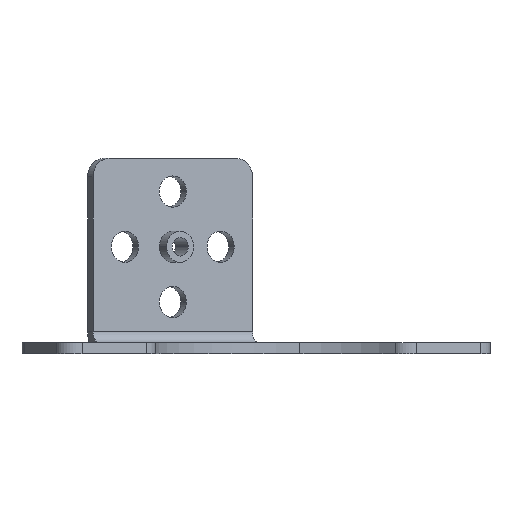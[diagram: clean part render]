
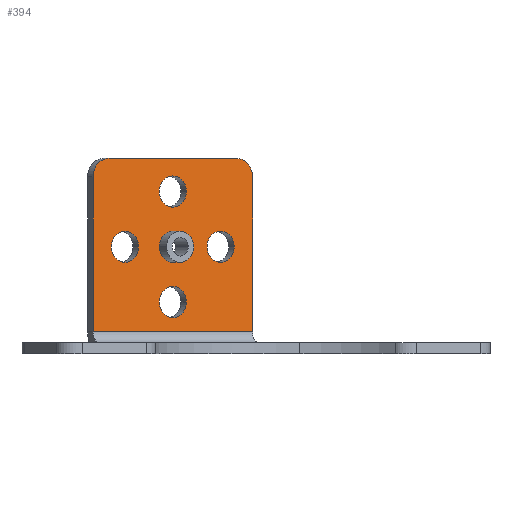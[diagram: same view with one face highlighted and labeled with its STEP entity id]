
A CAD part, left-side view. The second image highlights one B-rep face of the part: STEP entity #394.
In plain terms, the highlighted planar face has unit normal (-0.866, -0.5, 0).
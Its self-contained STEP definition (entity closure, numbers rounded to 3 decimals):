
#259 = VERTEX_POINT ( 'NONE', #1115 ) ;
#260 = VERTEX_POINT ( 'NONE', #1114 ) ;
#280 = VERTEX_POINT ( 'NONE', #1075 ) ;
#281 = VERTEX_POINT ( 'NONE', #1070 ) ;
#302 = EDGE_CURVE ( 'NONE', #259, #260, #953, .T. ) ;
#322 = EDGE_CURVE ( 'NONE', #281, #280, #1127, .T. ) ;
#336 = EDGE_CURVE ( 'NONE', #339, #337, #1177, .T. ) ;
#337 = VERTEX_POINT ( 'NONE', #1320 ) ;
#339 = VERTEX_POINT ( 'NONE', #1319 ) ;
#348 = ORIENTED_EDGE ( 'NONE', *, *, #484, .T. ) ;
#349 = EDGE_CURVE ( 'NONE', #547, #455, #1122, .T. ) ;
#350 = ORIENTED_EDGE ( 'NONE', *, *, #354, .F. ) ;
#354 = EDGE_CURVE ( 'NONE', #455, #547, #1295, .T. ) ;
#371 = ORIENTED_EDGE ( 'NONE', *, *, #372, .F. ) ;
#372 = EDGE_CURVE ( 'NONE', #260, #259, #1345, .T. ) ;
#373 = EDGE_LOOP ( 'NONE', ( #520, #482 ) ) ;
#374 = VERTEX_POINT ( 'NONE', #1340 ) ;
#375 = EDGE_CURVE ( 'NONE', #337, #339, #1339, .T. ) ;
#376 = ORIENTED_EDGE ( 'NONE', *, *, #302, .F. ) ;
#384 = EDGE_CURVE ( 'NONE', #385, #445, #1222, .T. ) ;
#385 = VERTEX_POINT ( 'NONE', #1218 ) ;
#394 = ADVANCED_FACE ( 'NONE', ( #1317, #1316, #1315, #1314, #1313, #1312 ), #1311, .T. ) ;
#416 = ORIENTED_EDGE ( 'NONE', *, *, #514, .F. ) ;
#417 = EDGE_LOOP ( 'NONE', ( #471, #479 ) ) ;
#430 = VERTEX_POINT ( 'NONE', #1496 ) ;
#431 = VERTEX_POINT ( 'NONE', #1495 ) ;
#445 = VERTEX_POINT ( 'NONE', #1475 ) ;
#446 = ORIENTED_EDGE ( 'NONE', *, *, #470, .T. ) ;
#455 = VERTEX_POINT ( 'NONE', #1391 ) ;
#465 = ORIENTED_EDGE ( 'NONE', *, *, #322, .F. ) ;
#466 = ORIENTED_EDGE ( 'NONE', *, *, #468, .F. ) ;
#467 = VERTEX_POINT ( 'NONE', #1549 ) ;
#468 = EDGE_CURVE ( 'NONE', #280, #281, #1548, .T. ) ;
#469 = EDGE_LOOP ( 'NONE', ( #515, #350 ) ) ;
#470 = EDGE_CURVE ( 'NONE', #385, #374, #1543, .T. ) ;
#471 = ORIENTED_EDGE ( 'NONE', *, *, #336, .F. ) ;
#479 = ORIENTED_EDGE ( 'NONE', *, *, #375, .F. ) ;
#480 = EDGE_LOOP ( 'NONE', ( #465, #466 ) ) ;
#481 = EDGE_LOOP ( 'NONE', ( #376, #371 ) ) ;
#482 = ORIENTED_EDGE ( 'NONE', *, *, #483, .F. ) ;
#483 = EDGE_CURVE ( 'NONE', #431, #430, #1526, .T. ) ;
#484 = EDGE_CURVE ( 'NONE', #467, #518, #1522, .T. ) ;
#492 = EDGE_LOOP ( 'NONE', ( #493, #446, #519, #348, #416, #513 ) ) ;
#493 = ORIENTED_EDGE ( 'NONE', *, *, #384, .F. ) ;
#509 = EDGE_CURVE ( 'NONE', #430, #431, #1580, .T. ) ;
#511 = VERTEX_POINT ( 'NONE', #1571 ) ;
#512 = EDGE_CURVE ( 'NONE', #467, #374, #1570, .T. ) ;
#513 = ORIENTED_EDGE ( 'NONE', *, *, #543, .F. ) ;
#514 = EDGE_CURVE ( 'NONE', #511, #518, #1566, .T. ) ;
#515 = ORIENTED_EDGE ( 'NONE', *, *, #349, .F. ) ;
#518 = VERTEX_POINT ( 'NONE', #1379 ) ;
#519 = ORIENTED_EDGE ( 'NONE', *, *, #512, .F. ) ;
#520 = ORIENTED_EDGE ( 'NONE', *, *, #509, .F. ) ;
#543 = EDGE_CURVE ( 'NONE', #445, #511, #1424, .T. ) ;
#547 = VERTEX_POINT ( 'NONE', #1411 ) ;
#949 = DIRECTION ( 'NONE',  ( 0.5, -0.866, 0. ) ) ;
#950 = DIRECTION ( 'NONE',  ( -0.866, -0.5, 0. ) ) ;
#951 = CARTESIAN_POINT ( 'NONE',  ( 104.171, 45.201, -1.9 ) ) ;
#952 = AXIS2_PLACEMENT_3D ( 'NONE', #951, #950, #949 ) ;
#953 = CIRCLE ( 'NONE', #952, 4.25 ) ;
#1070 = CARTESIAN_POINT ( 'NONE',  ( 109.546, 35.891, 13.1 ) ) ;
#1075 = CARTESIAN_POINT ( 'NONE',  ( 113.796, 28.53, 13.1 ) ) ;
#1114 = CARTESIAN_POINT ( 'NONE',  ( 106.296, 41.52, -1.9 ) ) ;
#1115 = CARTESIAN_POINT ( 'NONE',  ( 102.046, 48.881, -1.9 ) ) ;
#1118 = DIRECTION ( 'NONE',  ( 0.5, -0.866, 0. ) ) ;
#1119 = DIRECTION ( 'NONE',  ( -0.866, -0.5, 0. ) ) ;
#1120 = CARTESIAN_POINT ( 'NONE',  ( 104.171, 45.201, 13.1 ) ) ;
#1121 = AXIS2_PLACEMENT_3D ( 'NONE', #1120, #1119, #1118 ) ;
#1122 = CIRCLE ( 'NONE', #1121, 4.25 ) ;
#1125 = DIRECTION ( 'NONE',  ( -0.866, -0.5, 0. ) ) ;
#1126 = AXIS2_PLACEMENT_3D ( 'NONE', #1231, #1125, #1200 ) ;
#1127 = CIRCLE ( 'NONE', #1126, 4.25 ) ;
#1176 = CARTESIAN_POINT ( 'NONE',  ( 96.671, 58.191, 13.1 ) ) ;
#1177 = CIRCLE ( 'NONE', #1323, 4.25 ) ;
#1200 = DIRECTION ( 'NONE',  ( 0.5, -0.866, 0. ) ) ;
#1218 = CARTESIAN_POINT ( 'NONE',  ( 116.671, 23.55, 32.1 ) ) ;
#1219 = DIRECTION ( 'NONE',  ( 0., 0., -1. ) ) ;
#1220 = VECTOR ( 'NONE', #1219, 1000. ) ;
#1221 = CARTESIAN_POINT ( 'NONE',  ( 116.671, 23.55, -12.9 ) ) ;
#1222 = LINE ( 'NONE', #1221, #1220 ) ;
#1231 = CARTESIAN_POINT ( 'NONE',  ( 111.671, 32.21, 13.1 ) ) ;
#1237 = DIRECTION ( 'NONE',  ( 0.5, -0.866, 0. ) ) ;
#1238 = DIRECTION ( 'NONE',  ( -0.866, -0.5, 0. ) ) ;
#1239 = CARTESIAN_POINT ( 'NONE',  ( 104.171, 45.201, 13.1 ) ) ;
#1240 = AXIS2_PLACEMENT_3D ( 'NONE', #1239, #1238, #1237 ) ;
#1295 = CIRCLE ( 'NONE', #1240, 4.25 ) ;
#1307 = DIRECTION ( 'NONE',  ( 0.5, -0.866, 0. ) ) ;
#1308 = DIRECTION ( 'NONE',  ( -0.866, -0.5, 0. ) ) ;
#1309 = CARTESIAN_POINT ( 'NONE',  ( 91.671, 66.851, -12.9 ) ) ;
#1310 = AXIS2_PLACEMENT_3D ( 'NONE', #1309, #1308, #1307 ) ;
#1311 = PLANE ( 'NONE',  #1310 ) ;
#1312 = FACE_BOUND ( 'NONE', #469, .T. ) ;
#1313 = FACE_BOUND ( 'NONE', #373, .T. ) ;
#1314 = FACE_BOUND ( 'NONE', #481, .T. ) ;
#1315 = FACE_BOUND ( 'NONE', #480, .T. ) ;
#1316 = FACE_BOUND ( 'NONE', #417, .T. ) ;
#1317 = FACE_OUTER_BOUND ( 'NONE', #492, .T. ) ;
#1319 = CARTESIAN_POINT ( 'NONE',  ( 94.546, 61.872, 13.1 ) ) ;
#1320 = CARTESIAN_POINT ( 'NONE',  ( 98.796, 54.511, 13.1 ) ) ;
#1321 = DIRECTION ( 'NONE',  ( 0.5, -0.866, 0. ) ) ;
#1322 = DIRECTION ( 'NONE',  ( -0.866, -0.5, 0. ) ) ;
#1323 = AXIS2_PLACEMENT_3D ( 'NONE', #1176, #1322, #1321 ) ;
#1335 = DIRECTION ( 'NONE',  ( 0.5, -0.866, 0. ) ) ;
#1336 = DIRECTION ( 'NONE',  ( -0.866, -0.5, 0. ) ) ;
#1337 = CARTESIAN_POINT ( 'NONE',  ( 96.671, 58.191, 13.1 ) ) ;
#1338 = AXIS2_PLACEMENT_3D ( 'NONE', #1337, #1336, #1335 ) ;
#1339 = CIRCLE ( 'NONE', #1338, 4.25 ) ;
#1340 = CARTESIAN_POINT ( 'NONE',  ( 114.171, 27.88, 37.1 ) ) ;
#1341 = DIRECTION ( 'NONE',  ( 0.5, -0.866, 0. ) ) ;
#1342 = DIRECTION ( 'NONE',  ( -0.866, -0.5, 0. ) ) ;
#1343 = CARTESIAN_POINT ( 'NONE',  ( 104.171, 45.201, -1.9 ) ) ;
#1344 = AXIS2_PLACEMENT_3D ( 'NONE', #1343, #1342, #1341 ) ;
#1345 = CIRCLE ( 'NONE', #1344, 4.25 ) ;
#1379 = CARTESIAN_POINT ( 'NONE',  ( 91.671, 66.851, 32.1 ) ) ;
#1391 = CARTESIAN_POINT ( 'NONE',  ( 106.296, 41.52, 13.1 ) ) ;
#1411 = CARTESIAN_POINT ( 'NONE',  ( 102.046, 48.881, 13.1 ) ) ;
#1421 = DIRECTION ( 'NONE',  ( -0.5, 0.866, 0. ) ) ;
#1422 = VECTOR ( 'NONE', #1421, 1000. ) ;
#1423 = CARTESIAN_POINT ( 'NONE',  ( 116.671, 23.55, -9.9 ) ) ;
#1424 = LINE ( 'NONE', #1423, #1422 ) ;
#1475 = CARTESIAN_POINT ( 'NONE',  ( 116.671, 23.55, -9.9 ) ) ;
#1495 = CARTESIAN_POINT ( 'NONE',  ( 106.296, 41.52, 28.1 ) ) ;
#1496 = CARTESIAN_POINT ( 'NONE',  ( 102.046, 48.881, 28.1 ) ) ;
#1518 = DIRECTION ( 'NONE',  ( 0.5, -0.866, 0. ) ) ;
#1519 = DIRECTION ( 'NONE',  ( -0.866, -0.5, 0. ) ) ;
#1520 = CARTESIAN_POINT ( 'NONE',  ( 94.171, 62.521, 32.1 ) ) ;
#1521 = AXIS2_PLACEMENT_3D ( 'NONE', #1520, #1519, #1518 ) ;
#1522 = CIRCLE ( 'NONE', #1521, 5. ) ;
#1523 = DIRECTION ( 'NONE',  ( 0.5, -0.866, 0. ) ) ;
#1524 = DIRECTION ( 'NONE',  ( -0.866, -0.5, 0. ) ) ;
#1525 = AXIS2_PLACEMENT_3D ( 'NONE', #1532, #1524, #1523 ) ;
#1526 = CIRCLE ( 'NONE', #1525, 4.25 ) ;
#1532 = CARTESIAN_POINT ( 'NONE',  ( 104.171, 45.201, 28.1 ) ) ;
#1539 = DIRECTION ( 'NONE',  ( 0.5, -0.866, 0. ) ) ;
#1540 = DIRECTION ( 'NONE',  ( -0.866, -0.5, 0. ) ) ;
#1541 = CARTESIAN_POINT ( 'NONE',  ( 114.171, 27.88, 32.1 ) ) ;
#1542 = AXIS2_PLACEMENT_3D ( 'NONE', #1541, #1540, #1539 ) ;
#1543 = CIRCLE ( 'NONE', #1542, 5. ) ;
#1544 = DIRECTION ( 'NONE',  ( 0.5, -0.866, 0. ) ) ;
#1545 = DIRECTION ( 'NONE',  ( -0.866, -0.5, 0. ) ) ;
#1546 = CARTESIAN_POINT ( 'NONE',  ( 111.671, 32.21, 13.1 ) ) ;
#1547 = AXIS2_PLACEMENT_3D ( 'NONE', #1546, #1545, #1544 ) ;
#1548 = CIRCLE ( 'NONE', #1547, 4.25 ) ;
#1549 = CARTESIAN_POINT ( 'NONE',  ( 94.171, 62.521, 37.1 ) ) ;
#1563 = DIRECTION ( 'NONE',  ( 0., 0., 1. ) ) ;
#1564 = VECTOR ( 'NONE', #1563, 1000. ) ;
#1565 = CARTESIAN_POINT ( 'NONE',  ( 91.671, 66.851, 37.1 ) ) ;
#1566 = LINE ( 'NONE', #1565, #1564 ) ;
#1567 = DIRECTION ( 'NONE',  ( 0.5, -0.866, 0. ) ) ;
#1568 = VECTOR ( 'NONE', #1567, 1000. ) ;
#1569 = CARTESIAN_POINT ( 'NONE',  ( 116.671, 23.55, 37.1 ) ) ;
#1570 = LINE ( 'NONE', #1569, #1568 ) ;
#1571 = CARTESIAN_POINT ( 'NONE',  ( 91.671, 66.851, -9.9 ) ) ;
#1576 = DIRECTION ( 'NONE',  ( 0.5, -0.866, 0. ) ) ;
#1577 = DIRECTION ( 'NONE',  ( -0.866, -0.5, 0. ) ) ;
#1578 = CARTESIAN_POINT ( 'NONE',  ( 104.171, 45.201, 28.1 ) ) ;
#1579 = AXIS2_PLACEMENT_3D ( 'NONE', #1578, #1577, #1576 ) ;
#1580 = CIRCLE ( 'NONE', #1579, 4.25 ) ;
